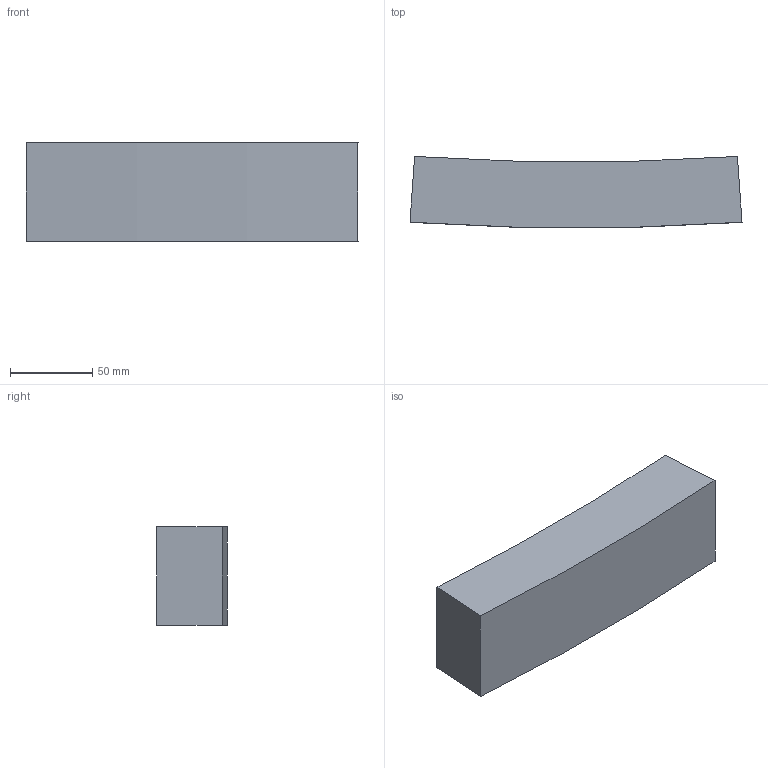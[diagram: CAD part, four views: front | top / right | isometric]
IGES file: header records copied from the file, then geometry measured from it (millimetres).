
Start section:  PTC IGES file: d160-1600_fixbloc_d1400_pk-01.igs
Global section: file name: d160-1600_fixbloc_d1400_pk-01.igs; native system: Creo Parametric by PTC Inc.; preprocessor: 2019030; author: demmerls; organization: Unknown; date: 20200928.105819; units: millimetre
Bounding box: 201.37 x 43.03 x 60 mm (x, y, z)
Surface area: 44547.8 mm2 (no closed solid volume)
Topology: 0 solids, 0 shells, 6 faces, 24 edges, 24 vertices
Faces by surface type: bspline 6
